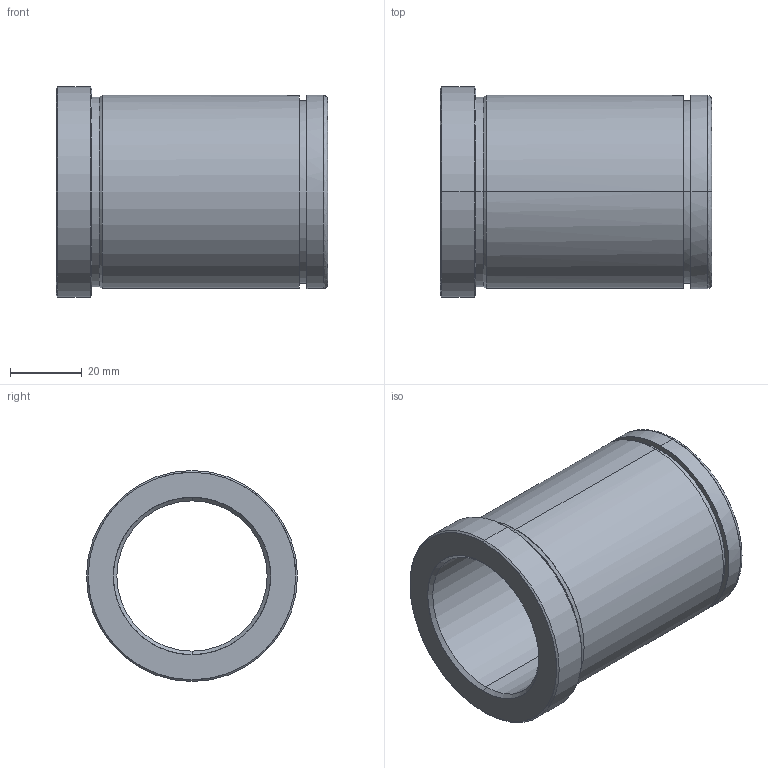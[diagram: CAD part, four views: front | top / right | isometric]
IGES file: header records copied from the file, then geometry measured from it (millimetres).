
Start section: START RECORD GO HERE.
Global section: file name: 553-42X76.igs; native system: DASSAULT SYSTEMES CATIA V5 R20 - www.3ds.com; preprocessor: CATIA Version 5 Release 20 ; author: Utente; organization: NB04-ASUS; date: 20210608.195415; units: millimetre
Bounding box: 76 x 59 x 59 mm (x, y, z)
Surface area: 25936.6 mm2 (no closed solid volume)
Topology: 0 solids, 0 shells, 29 faces, 184 edges, 184 vertices
Faces by surface type: revolution 24, plane 5
